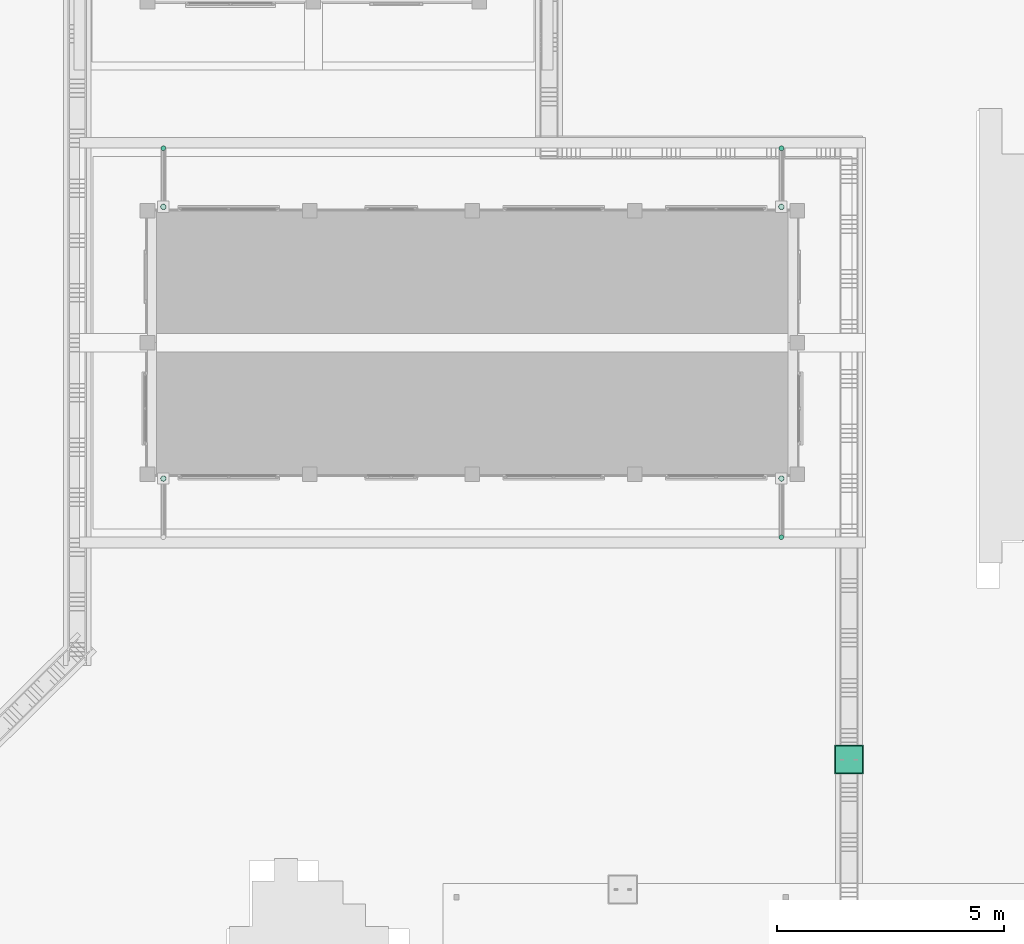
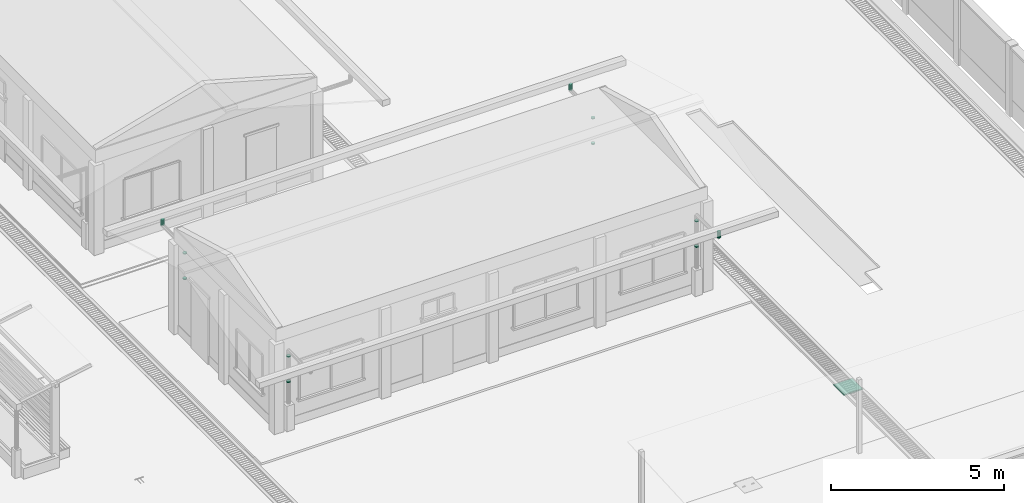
# One storey, part 111 of 151: 11 flow segments, 2 distribution chamber elements.
"""IFC2X3 building model written with IfcOpenShell, lengths in metres."""

from ifc_helpers import new_model, si_unit, origin, origin_with_axes, place, context, subcontext, project, spatial, faceted_brep, element, save


model = new_model("IFC2X3")

# Units and contexts
model_context = context("Model", 3, precision=1e-05, world=origin_with_axes())
body_context = subcontext(model_context, "Body", "Model", "MODEL_VIEW")
ifc_project = project(units=[si_unit("LENGTHUNIT", "METRE"), si_unit("AREAUNIT", "SQUARE_METRE"), si_unit("VOLUMEUNIT", "CUBIC_METRE"), si_unit("PLANEANGLEUNIT", "RADIAN")], contexts=[model_context])

# Site, building, storey
site_placement = place(None, origin_with_axes())
site = spatial("IfcSite", under=ifc_project, at=site_placement, Name="Predio Los Mangos - Morales, San Martín", CompositionType="ELEMENT")
building_placement = place(site_placement, origin())
building = spatial("IfcBuilding", under=site, at=building_placement, Name="Hogar de Refugio Temporal", CompositionType="ELEMENT")
storey_placement = place(building_placement, origin())
storey = spatial("IfcBuildingStorey", under=building, at=storey_placement, Name="NIVEL 1 (NPT +0.00)", CompositionType="ELEMENT", Elevation=0.0)

# Flow segments
flow_segment_1_placement = place(storey_placement, origin())
element("IfcFlowSegment", 1, at=flow_segment_1_placement, inside=storey, Name="montante_abrazadera", ObjectType="Montante PVC 4\"", context=body_context, shape_type="Brep", body=[
    faceted_brep([(45.65, 32.348, 1.8), (45.65, 32.348, 1.84), (45.619, 32.3563, 1.84), (45.619, 32.3563, 1.8), (45.5963, 32.379, 1.84), (45.5963, 32.379, 1.8), (45.588, 32.41, 1.84), (45.588, 32.41, 1.8), (45.5963, 32.441, 1.84), (45.5963, 32.441, 1.8), (45.619, 32.4637, 1.84), (45.619, 32.4637, 1.8), (45.65, 32.472, 1.84), (45.65, 32.472, 1.8), (45.681, 32.4637, 1.84), (45.681, 32.4637, 1.8), (45.7037, 32.441, 1.84), (45.7037, 32.441, 1.8), (45.712, 32.41, 1.84), (45.712, 32.41, 1.8), (45.7037, 32.379, 1.84), (45.7037, 32.379, 1.8), (45.681, 32.3563, 1.84), (45.681, 32.3563, 1.8)], [[[0, 1, 2, 3]], [[3, 2, 4, 5]], [[5, 4, 6, 7]], [[7, 6, 8, 9]], [[9, 8, 10, 11]], [[11, 10, 12, 13]], [[13, 12, 14, 15]], [[15, 14, 16, 17]], [[17, 16, 18, 19]], [[19, 18, 20, 21]], [[2, 1, 22, 20, 18, 16, 14, 12, 10, 8, 6, 4]], [[21, 20, 22, 23]], [[23, 22, 1, 0]], [[0, 3, 5, 7, 9, 11, 13, 15, 17, 19, 21, 23]]]),
])
flow_segment_2_placement = place(storey_placement, origin())
element("IfcFlowSegment", 2, at=flow_segment_2_placement, inside=storey, Name="montante_abrazadera", ObjectType="Montante PVC 4\"", context=body_context, shape_type="Brep", body=[
    faceted_brep([(45.65, 32.348, 2.7), (45.65, 32.348, 2.74), (45.619, 32.3563, 2.74), (45.619, 32.3563, 2.7), (45.5963, 32.379, 2.74), (45.5963, 32.379, 2.7), (45.588, 32.41, 2.74), (45.588, 32.41, 2.7), (45.5963, 32.441, 2.74), (45.5963, 32.441, 2.7), (45.619, 32.4637, 2.74), (45.619, 32.4637, 2.7), (45.65, 32.472, 2.74), (45.65, 32.472, 2.7), (45.681, 32.4637, 2.74), (45.681, 32.4637, 2.7), (45.7037, 32.441, 2.74), (45.7037, 32.441, 2.7), (45.712, 32.41, 2.74), (45.712, 32.41, 2.7), (45.7037, 32.379, 2.74), (45.7037, 32.379, 2.7), (45.681, 32.3563, 2.74), (45.681, 32.3563, 2.7)], [[[0, 1, 2, 3]], [[3, 2, 4, 5]], [[5, 4, 6, 7]], [[7, 6, 8, 9]], [[9, 8, 10, 11]], [[11, 10, 12, 13]], [[13, 12, 14, 15]], [[15, 14, 16, 17]], [[17, 16, 18, 19]], [[19, 18, 20, 21]], [[2, 1, 22, 20, 18, 16, 14, 12, 10, 8, 6, 4]], [[21, 20, 22, 23]], [[23, 22, 1, 0]], [[0, 3, 5, 7, 9, 11, 13, 15, 17, 19, 21, 23]]]),
])
flow_segment_3_placement = place(storey_placement, origin())
element("IfcFlowSegment", 3, at=flow_segment_3_placement, inside=storey, Name="montante_boquilla", ObjectType="Montante PVC 4\"", context=body_context, shape_type="Brep", body=[
    faceted_brep([(59.25, 31.175, 3.13), (59.25, 31.175, 2.91), (59.2225, 31.1676, 2.91), (59.2225, 31.1676, 3.13), (59.2024, 31.1475, 2.91), (59.2024, 31.1475, 3.13), (59.195, 31.12, 2.91), (59.195, 31.12, 3.13), (59.2024, 31.0925, 2.91), (59.2024, 31.0925, 3.13), (59.2225, 31.0724, 2.91), (59.2225, 31.0724, 3.13), (59.25, 31.065, 2.91), (59.25, 31.065, 3.13), (59.2775, 31.0724, 2.91), (59.2775, 31.0724, 3.13), (59.2976, 31.0925, 2.91), (59.2976, 31.0925, 3.13), (59.305, 31.12, 2.91), (59.305, 31.12, 3.13), (59.2976, 31.1475, 2.91), (59.2976, 31.1475, 3.13), (59.2775, 31.1676, 2.91), (59.2775, 31.1676, 3.13)], [[[0, 1, 2, 3]], [[3, 2, 4, 5]], [[5, 4, 6, 7]], [[7, 6, 8, 9]], [[9, 8, 10, 11]], [[11, 10, 12, 13]], [[13, 12, 14, 15]], [[15, 14, 16, 17]], [[17, 16, 18, 19]], [[19, 18, 20, 21]], [[2, 1, 22, 20, 18, 16, 14, 12, 10, 8, 6, 4]], [[21, 20, 22, 23]], [[23, 22, 1, 0]], [[0, 3, 5, 7, 9, 11, 13, 15, 17, 19, 21, 23]]]),
])
flow_segment_4_placement = place(storey_placement, origin())
element("IfcFlowSegment", 4, at=flow_segment_4_placement, inside=storey, Name="montante_abrazadera", ObjectType="Montante PVC 4\"", context=body_context, shape_type="Brep", body=[
    faceted_brep([(59.25, 32.348, 1.8), (59.25, 32.348, 1.84), (59.219, 32.3563, 1.84), (59.219, 32.3563, 1.8), (59.1963, 32.379, 1.84), (59.1963, 32.379, 1.8), (59.188, 32.41, 1.84), (59.188, 32.41, 1.8), (59.1963, 32.441, 1.84), (59.1963, 32.441, 1.8), (59.219, 32.4637, 1.84), (59.219, 32.4637, 1.8), (59.25, 32.472, 1.84), (59.25, 32.472, 1.8), (59.281, 32.4637, 1.84), (59.281, 32.4637, 1.8), (59.3037, 32.441, 1.84), (59.3037, 32.441, 1.8), (59.312, 32.41, 1.84), (59.312, 32.41, 1.8), (59.3037, 32.379, 1.84), (59.3037, 32.379, 1.8), (59.281, 32.3563, 1.84), (59.281, 32.3563, 1.8)], [[[0, 1, 2, 3]], [[3, 2, 4, 5]], [[5, 4, 6, 7]], [[7, 6, 8, 9]], [[9, 8, 10, 11]], [[11, 10, 12, 13]], [[13, 12, 14, 15]], [[15, 14, 16, 17]], [[17, 16, 18, 19]], [[19, 18, 20, 21]], [[2, 1, 22, 20, 18, 16, 14, 12, 10, 8, 6, 4]], [[21, 20, 22, 23]], [[23, 22, 1, 0]], [[0, 3, 5, 7, 9, 11, 13, 15, 17, 19, 21, 23]]]),
])
flow_segment_5_placement = place(storey_placement, origin())
element("IfcFlowSegment", 5, at=flow_segment_5_placement, inside=storey, Name="montante_abrazadera", ObjectType="Montante PVC 4\"", context=body_context, shape_type="Brep", body=[
    faceted_brep([(59.25, 32.348, 2.7), (59.25, 32.348, 2.74), (59.219, 32.3563, 2.74), (59.219, 32.3563, 2.7), (59.1963, 32.379, 2.74), (59.1963, 32.379, 2.7), (59.188, 32.41, 2.74), (59.188, 32.41, 2.7), (59.1963, 32.441, 2.74), (59.1963, 32.441, 2.7), (59.219, 32.4637, 2.74), (59.219, 32.4637, 2.7), (59.25, 32.472, 2.74), (59.25, 32.472, 2.7), (59.281, 32.4637, 2.74), (59.281, 32.4637, 2.7), (59.3037, 32.441, 2.74), (59.3037, 32.441, 2.7), (59.312, 32.41, 2.74), (59.312, 32.41, 2.7), (59.3037, 32.379, 2.74), (59.3037, 32.379, 2.7), (59.281, 32.3563, 2.74), (59.281, 32.3563, 2.7)], [[[0, 1, 2, 3]], [[3, 2, 4, 5]], [[5, 4, 6, 7]], [[7, 6, 8, 9]], [[9, 8, 10, 11]], [[11, 10, 12, 13]], [[13, 12, 14, 15]], [[15, 14, 16, 17]], [[17, 16, 18, 19]], [[19, 18, 20, 21]], [[2, 1, 22, 20, 18, 16, 14, 12, 10, 8, 6, 4]], [[21, 20, 22, 23]], [[23, 22, 1, 0]], [[0, 3, 5, 7, 9, 11, 13, 15, 17, 19, 21, 23]]]),
])
flow_segment_6_placement = place(storey_placement, origin())
element("IfcFlowSegment", 6, at=flow_segment_6_placement, inside=storey, Name="montante_boquilla", ObjectType="Montante PVC 4\"", context=body_context, shape_type="Brep", body=[
    faceted_brep([(45.65, 39.735, 3.13), (45.65, 39.735, 2.91), (45.6225, 39.7276, 2.91), (45.6225, 39.7276, 3.13), (45.6024, 39.7075, 2.91), (45.6024, 39.7075, 3.13), (45.595, 39.68, 2.91), (45.595, 39.68, 3.13), (45.6024, 39.6525, 2.91), (45.6024, 39.6525, 3.13), (45.6225, 39.6324, 2.91), (45.6225, 39.6324, 3.13), (45.65, 39.625, 2.91), (45.65, 39.625, 3.13), (45.6775, 39.6324, 2.91), (45.6775, 39.6324, 3.13), (45.6976, 39.6525, 2.91), (45.6976, 39.6525, 3.13), (45.705, 39.68, 2.91), (45.705, 39.68, 3.13), (45.6976, 39.7075, 2.91), (45.6976, 39.7075, 3.13), (45.6775, 39.7276, 2.91), (45.6775, 39.7276, 3.13)], [[[0, 1, 2, 3]], [[3, 2, 4, 5]], [[5, 4, 6, 7]], [[7, 6, 8, 9]], [[9, 8, 10, 11]], [[11, 10, 12, 13]], [[13, 12, 14, 15]], [[15, 14, 16, 17]], [[17, 16, 18, 19]], [[19, 18, 20, 21]], [[2, 1, 22, 20, 18, 16, 14, 12, 10, 8, 6, 4]], [[21, 20, 22, 23]], [[23, 22, 1, 0]], [[0, 3, 5, 7, 9, 11, 13, 15, 17, 19, 21, 23]]]),
])
flow_segment_7_placement = place(storey_placement, origin())
element("IfcFlowSegment", 7, at=flow_segment_7_placement, inside=storey, Name="montante_abrazadera", ObjectType="Montante PVC 4\"", context=body_context, shape_type="Brep", body=[
    faceted_brep([(45.65, 38.328, 1.8), (45.65, 38.328, 1.84), (45.619, 38.3363, 1.84), (45.619, 38.3363, 1.8), (45.5963, 38.359, 1.84), (45.5963, 38.359, 1.8), (45.588, 38.39, 1.84), (45.588, 38.39, 1.8), (45.5963, 38.421, 1.84), (45.5963, 38.421, 1.8), (45.619, 38.4437, 1.84), (45.619, 38.4437, 1.8), (45.65, 38.452, 1.84), (45.65, 38.452, 1.8), (45.681, 38.4437, 1.84), (45.681, 38.4437, 1.8), (45.7037, 38.421, 1.84), (45.7037, 38.421, 1.8), (45.712, 38.39, 1.84), (45.712, 38.39, 1.8), (45.7037, 38.359, 1.84), (45.7037, 38.359, 1.8), (45.681, 38.3363, 1.84), (45.681, 38.3363, 1.8)], [[[0, 1, 2, 3]], [[3, 2, 4, 5]], [[5, 4, 6, 7]], [[7, 6, 8, 9]], [[9, 8, 10, 11]], [[11, 10, 12, 13]], [[13, 12, 14, 15]], [[15, 14, 16, 17]], [[17, 16, 18, 19]], [[19, 18, 20, 21]], [[2, 1, 22, 20, 18, 16, 14, 12, 10, 8, 6, 4]], [[21, 20, 22, 23]], [[23, 22, 1, 0]], [[0, 3, 5, 7, 9, 11, 13, 15, 17, 19, 21, 23]]]),
])
flow_segment_8_placement = place(storey_placement, origin())
element("IfcFlowSegment", 8, at=flow_segment_8_placement, inside=storey, Name="montante_abrazadera", ObjectType="Montante PVC 4\"", context=body_context, shape_type="Brep", body=[
    faceted_brep([(45.65, 38.328, 2.7), (45.65, 38.328, 2.74), (45.619, 38.3363, 2.74), (45.619, 38.3363, 2.7), (45.5963, 38.359, 2.74), (45.5963, 38.359, 2.7), (45.588, 38.39, 2.74), (45.588, 38.39, 2.7), (45.5963, 38.421, 2.74), (45.5963, 38.421, 2.7), (45.619, 38.4437, 2.74), (45.619, 38.4437, 2.7), (45.65, 38.452, 2.74), (45.65, 38.452, 2.7), (45.681, 38.4437, 2.74), (45.681, 38.4437, 2.7), (45.7037, 38.421, 2.74), (45.7037, 38.421, 2.7), (45.712, 38.39, 2.74), (45.712, 38.39, 2.7), (45.7037, 38.359, 2.74), (45.7037, 38.359, 2.7), (45.681, 38.3363, 2.74), (45.681, 38.3363, 2.7)], [[[0, 1, 2, 3]], [[3, 2, 4, 5]], [[5, 4, 6, 7]], [[7, 6, 8, 9]], [[9, 8, 10, 11]], [[11, 10, 12, 13]], [[13, 12, 14, 15]], [[15, 14, 16, 17]], [[17, 16, 18, 19]], [[19, 18, 20, 21]], [[2, 1, 22, 20, 18, 16, 14, 12, 10, 8, 6, 4]], [[21, 20, 22, 23]], [[23, 22, 1, 0]], [[0, 3, 5, 7, 9, 11, 13, 15, 17, 19, 21, 23]]]),
])
flow_segment_9_placement = place(storey_placement, origin())
element("IfcFlowSegment", 9, at=flow_segment_9_placement, inside=storey, Name="montante_boquilla", ObjectType="Montante PVC 4\"", context=body_context, shape_type="Brep", body=[
    faceted_brep([(59.25, 39.735, 3.13), (59.25, 39.735, 2.91), (59.2225, 39.7276, 2.91), (59.2225, 39.7276, 3.13), (59.2024, 39.7075, 2.91), (59.2024, 39.7075, 3.13), (59.195, 39.68, 2.91), (59.195, 39.68, 3.13), (59.2024, 39.6525, 2.91), (59.2024, 39.6525, 3.13), (59.2225, 39.6324, 2.91), (59.2225, 39.6324, 3.13), (59.25, 39.625, 2.91), (59.25, 39.625, 3.13), (59.2775, 39.6324, 2.91), (59.2775, 39.6324, 3.13), (59.2976, 39.6525, 2.91), (59.2976, 39.6525, 3.13), (59.305, 39.68, 2.91), (59.305, 39.68, 3.13), (59.2976, 39.7075, 2.91), (59.2976, 39.7075, 3.13), (59.2775, 39.7276, 2.91), (59.2775, 39.7276, 3.13)], [[[0, 1, 2, 3]], [[3, 2, 4, 5]], [[5, 4, 6, 7]], [[7, 6, 8, 9]], [[9, 8, 10, 11]], [[11, 10, 12, 13]], [[13, 12, 14, 15]], [[15, 14, 16, 17]], [[17, 16, 18, 19]], [[19, 18, 20, 21]], [[2, 1, 22, 20, 18, 16, 14, 12, 10, 8, 6, 4]], [[21, 20, 22, 23]], [[23, 22, 1, 0]], [[0, 3, 5, 7, 9, 11, 13, 15, 17, 19, 21, 23]]]),
])
flow_segment_10_placement = place(storey_placement, origin())
element("IfcFlowSegment", 10, at=flow_segment_10_placement, inside=storey, Name="montante_abrazadera", ObjectType="Montante PVC 4\"", context=body_context, shape_type="Brep", body=[
    faceted_brep([(59.25, 38.328, 1.8), (59.25, 38.328, 1.84), (59.219, 38.3363, 1.84), (59.219, 38.3363, 1.8), (59.1963, 38.359, 1.84), (59.1963, 38.359, 1.8), (59.188, 38.39, 1.84), (59.188, 38.39, 1.8), (59.1963, 38.421, 1.84), (59.1963, 38.421, 1.8), (59.219, 38.4437, 1.84), (59.219, 38.4437, 1.8), (59.25, 38.452, 1.84), (59.25, 38.452, 1.8), (59.281, 38.4437, 1.84), (59.281, 38.4437, 1.8), (59.3037, 38.421, 1.84), (59.3037, 38.421, 1.8), (59.312, 38.39, 1.84), (59.312, 38.39, 1.8), (59.3037, 38.359, 1.84), (59.3037, 38.359, 1.8), (59.281, 38.3363, 1.84), (59.281, 38.3363, 1.8)], [[[0, 1, 2, 3]], [[3, 2, 4, 5]], [[5, 4, 6, 7]], [[7, 6, 8, 9]], [[9, 8, 10, 11]], [[11, 10, 12, 13]], [[13, 12, 14, 15]], [[15, 14, 16, 17]], [[17, 16, 18, 19]], [[19, 18, 20, 21]], [[2, 1, 22, 20, 18, 16, 14, 12, 10, 8, 6, 4]], [[21, 20, 22, 23]], [[23, 22, 1, 0]], [[0, 3, 5, 7, 9, 11, 13, 15, 17, 19, 21, 23]]]),
])
flow_segment_11_placement = place(storey_placement, origin())
element("IfcFlowSegment", 11, at=flow_segment_11_placement, inside=storey, Name="montante_abrazadera", ObjectType="Montante PVC 4\"", context=body_context, shape_type="Brep", body=[
    faceted_brep([(59.25, 38.328, 2.7), (59.25, 38.328, 2.74), (59.219, 38.3363, 2.74), (59.219, 38.3363, 2.7), (59.1963, 38.359, 2.74), (59.1963, 38.359, 2.7), (59.188, 38.39, 2.74), (59.188, 38.39, 2.7), (59.1963, 38.421, 2.74), (59.1963, 38.421, 2.7), (59.219, 38.4437, 2.74), (59.219, 38.4437, 2.7), (59.25, 38.452, 2.74), (59.25, 38.452, 2.7), (59.281, 38.4437, 2.74), (59.281, 38.4437, 2.7), (59.3037, 38.421, 2.74), (59.3037, 38.421, 2.7), (59.312, 38.39, 2.74), (59.312, 38.39, 2.7), (59.3037, 38.359, 2.74), (59.3037, 38.359, 2.7), (59.281, 38.3363, 2.74), (59.281, 38.3363, 2.7)], [[[0, 1, 2, 3]], [[3, 2, 4, 5]], [[5, 4, 6, 7]], [[7, 6, 8, 9]], [[9, 8, 10, 11]], [[11, 10, 12, 13]], [[13, 12, 14, 15]], [[15, 14, 16, 17]], [[17, 16, 18, 19]], [[19, 18, 20, 21]], [[2, 1, 22, 20, 18, 16, 14, 12, 10, 8, 6, 4]], [[21, 20, 22, 23]], [[23, 22, 1, 0]], [[0, 3, 5, 7, 9, 11, 13, 15, 17, 19, 21, 23]]]),
])

# Distribution chamber elements
distribution_chamber_element_1_placement = place(storey_placement, origin())
element("IfcDistributionChamberElement", 12, at=distribution_chamber_element_1_placement, inside=storey, Name="tapa_insp_junta", ObjectType="Tapa de inspección", context=body_context, shape_type="Brep", body=[
    faceted_brep([(60.415, 25.906, 0.082), (60.415, 26.546, 0.082), (61.055, 26.546, 0.082), (61.055, 25.906, 0.082), (60.415, 25.906, 0.096), (61.055, 25.906, 0.096), (61.055, 26.546, 0.096), (60.415, 26.546, 0.096)], [[[0, 1, 2, 3]], [[4, 5, 6, 7]], [[0, 3, 5, 4]], [[3, 2, 6, 5]], [[2, 1, 7, 6]], [[1, 0, 4, 7]]]),
])
distribution_chamber_element_2_placement = place(storey_placement, origin())
element("IfcDistributionChamberElement", 13, at=distribution_chamber_element_2_placement, inside=storey, Name="tapa_inspeccion", ObjectType="Tapa de inspección", context=body_context, shape_type="Brep", body=[
    faceted_brep([(60.435, 25.926, 0.082), (60.435, 26.526, 0.082), (61.035, 26.526, 0.082), (61.035, 25.926, 0.082), (60.435, 25.926, 0.104), (61.035, 25.926, 0.104), (61.035, 26.526, 0.104), (60.435, 26.526, 0.104)], [[[0, 1, 2, 3]], [[4, 5, 6, 7]], [[0, 3, 5, 4]], [[3, 2, 6, 5]], [[2, 1, 7, 6]], [[1, 0, 4, 7]]]),
])

save(model, "model.ifc")
